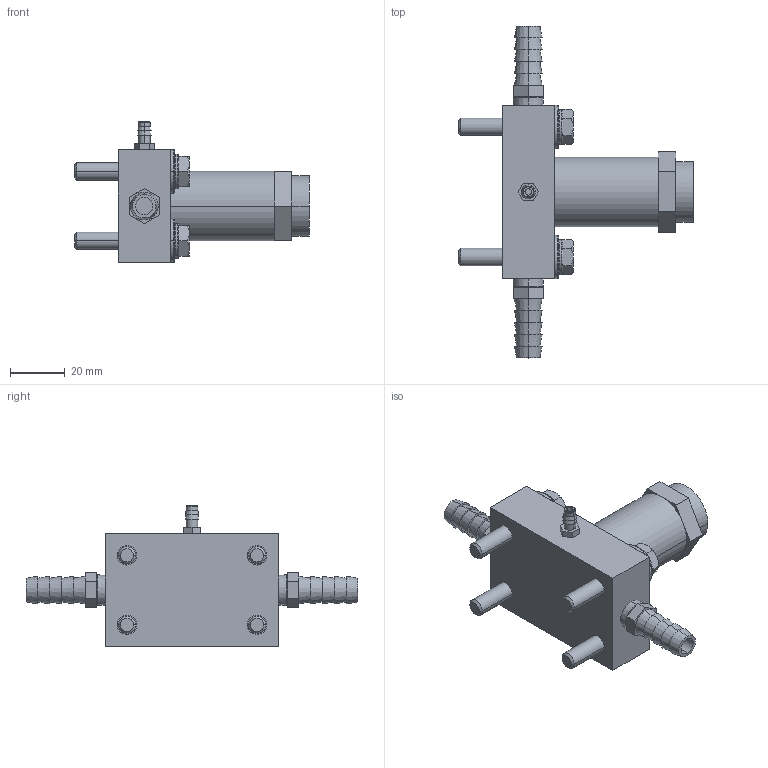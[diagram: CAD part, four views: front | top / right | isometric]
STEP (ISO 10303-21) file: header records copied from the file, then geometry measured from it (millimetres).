
FILE_DESCRIPTION((''),'2;1');
FILE_NAME('UA2_ASM','2017-08-22T',('jennifer.elliott'),('CenterLine (Windsor) Ltd - Automation Components Division'),'PRO/ENGINEER BY PARAMETRIC TECHNOLOGY CORPORATION, 2015030','PRO/ENGINEER BY PARAMETRIC TECHNOLOGY CORPORATION, 2015030','');
FILE_SCHEMA(('AUTOMOTIVE_DESIGN { 1 0 10303 214 1 1 1 1 }'));
Length unit declared in the file: inch
Products named in the file (17): TMP_DWG-3DSOLID_36; TMP_DWG-3DSOLID_37; TMP_DWG-3DSOLID_38; TMP_DWG-3DSOLID_39; TMP_DWG-3DSOLID_40; TMP_DWG-3DSOLID_43; TMP_DWG-3DSOLID_44; LUMP_2; LUMP_6; LUMP_9; LUMP_14; TMP_DWG-3DSOLID_45_ASM; TMP_DWG-3DSOLID_46; TMP_DWG-3DSOLID_47; TMP_DWG-3DSOLID_72; TMP_DWG-3DSOLID_74; UA2_ASM
Assembly tree (16 placements, depth 3):
  UA2_ASM
    TMP_DWG-3DSOLID_36
    TMP_DWG-3DSOLID_37
    TMP_DWG-3DSOLID_38
    TMP_DWG-3DSOLID_39
    TMP_DWG-3DSOLID_40
    TMP_DWG-3DSOLID_43
    TMP_DWG-3DSOLID_44
    TMP_DWG-3DSOLID_45_ASM
      LUMP_2
      LUMP_6
      LUMP_9
      LUMP_14
    TMP_DWG-3DSOLID_46
    TMP_DWG-3DSOLID_47
    TMP_DWG-3DSOLID_72
    TMP_DWG-3DSOLID_74
Bounding box: 85.72 x 121.41 x 51.59 mm (x, y, z)
Volume: 82946.7 mm3; surface area: 27998.4 mm2
Topology: 15 solids, 15 shells, 257 faces, 592 edges, 386 vertices
Faces by surface type: plane 115, cone 60, cylinder 54, torus 28
Entity records: 8750 total; most frequent: CARTESIAN_POINT 1770, DIRECTION 1362, ORIENTED_EDGE 1184, EDGE_CURVE 592, AXIS2_PLACEMENT_3D 564, VERTEX_POINT 386, EDGE_LOOP 300, CIRCLE 270
